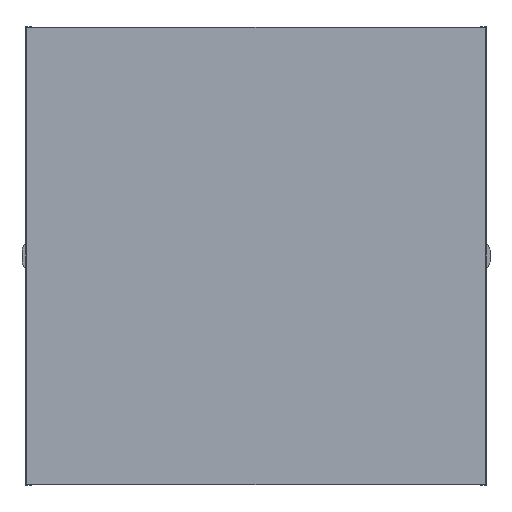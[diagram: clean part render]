
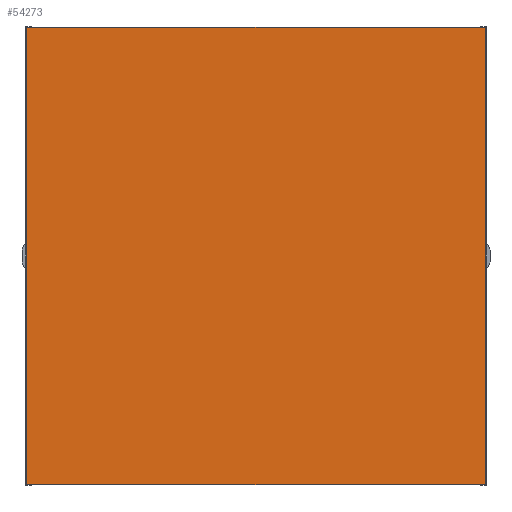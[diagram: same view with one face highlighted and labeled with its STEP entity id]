
A CAD part, top view. The second image highlights one B-rep face of the part: STEP entity #54273.
In plain terms, the highlighted planar face has unit normal (0, 0, 1) as drawn and (1, 0, 0) by its records, which use the part's own axes.
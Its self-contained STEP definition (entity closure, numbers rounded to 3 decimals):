
#3718=FACE_OUTER_BOUND('',#6626,.T.);
#6626=EDGE_LOOP('',(#40940,#40941,#40942,#40943));
#10958=LINE('',#85035,#16586);
#10962=LINE('',#85043,#16590);
#10964=LINE('',#85047,#16592);
#10966=LINE('',#85050,#16594);
#16586=VECTOR('',#66330,10.);
#16590=VECTOR('',#66338,10.);
#16592=VECTOR('',#66342,10.);
#16594=VECTOR('',#66346,10.);
#23782=VERTEX_POINT('',#85032);
#23783=VERTEX_POINT('',#85034);
#23785=VERTEX_POINT('',#85042);
#23786=VERTEX_POINT('',#85046);
#30067=EDGE_CURVE('',#23783,#23782,#10958,.T.);
#30071=EDGE_CURVE('',#23785,#23783,#10962,.T.);
#30073=EDGE_CURVE('',#23786,#23785,#10964,.T.);
#30075=EDGE_CURVE('',#23782,#23786,#10966,.T.);
#40940=ORIENTED_EDGE('',*,*,#30075,.T.);
#40941=ORIENTED_EDGE('',*,*,#30073,.T.);
#40942=ORIENTED_EDGE('',*,*,#30071,.T.);
#40943=ORIENTED_EDGE('',*,*,#30067,.T.);
#51920=PLANE('',#58055);
#54273=ADVANCED_FACE('',(#3718),#51920,.T.);
#58055=AXIS2_PLACEMENT_3D('',#85051,#66347,#66348);
#66330=DIRECTION('',(0.,0.,1.));
#66338=DIRECTION('',(0.,1.,0.));
#66342=DIRECTION('',(0.,0.,-1.));
#66346=DIRECTION('',(0.,-1.,0.));
#66347=DIRECTION('center_axis',(1.,0.,0.));
#66348=DIRECTION('ref_axis',(0.,0.,-1.));
#85032=CARTESIAN_POINT('',(5.4,60.,60.2));
#85034=CARTESIAN_POINT('',(5.4,60.,-60.2));
#85035=CARTESIAN_POINT('',(5.4,60.,60.2));
#85042=CARTESIAN_POINT('',(5.4,-60.,-60.2));
#85043=CARTESIAN_POINT('',(5.4,60.,-60.2));
#85046=CARTESIAN_POINT('',(5.4,-60.,60.2));
#85047=CARTESIAN_POINT('',(5.4,-60.,-60.2));
#85050=CARTESIAN_POINT('',(5.4,-60.,60.2));
#85051=CARTESIAN_POINT('Origin',(5.4,0.,0.));
